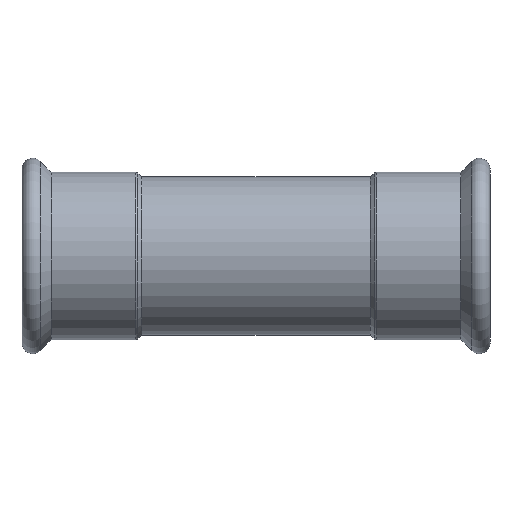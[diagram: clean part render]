
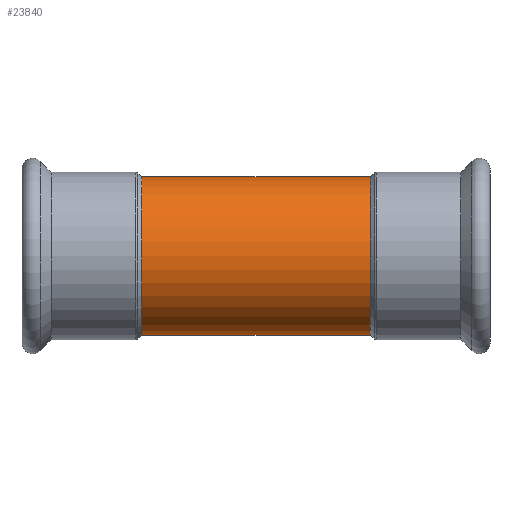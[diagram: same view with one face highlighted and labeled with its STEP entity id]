
A CAD part, top view. The second image highlights one B-rep face of the part: STEP entity #23840.
In plain terms, the highlighted cylindrical face has radius 44.45 mm (diameter 88.9 mm), a partial arc.
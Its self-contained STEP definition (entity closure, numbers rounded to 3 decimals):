
#4580=CARTESIAN_POINT('',(13.846,145.131,
0.));
#4590=DIRECTION('',(1.,0.,0.));
#4600=DIRECTION('',(0.,0.,1.));
#4610=AXIS2_PLACEMENT_3D('',#4580,#4590,#4600);
#4620=CYLINDRICAL_SURFACE('',#4610,44.45);
#12190=CARTESIAN_POINT('',(-114.154,145.131,44.45));
#12200=VERTEX_POINT('',#12190);
#12380=CARTESIAN_POINT('',(-114.154,145.131,-44.45));
#12390=VERTEX_POINT('',#12380);
#12420=CARTESIAN_POINT('',(-114.154,145.131,
0.));
#12430=DIRECTION('',(1.,0.,0.));
#12440=DIRECTION('',(0.,0.,1.));
#12450=AXIS2_PLACEMENT_3D('',#12420,#12430,#12440);
#12460=CIRCLE('',#12450,44.45);
#13470=CARTESIAN_POINT('',(13.846,145.131,-44.45));
#13480=DIRECTION('',(1.,0.,0.));
#13490=VECTOR('',#13480,1.);
#13500=LINE('',#13470,#13490);
#13510=CARTESIAN_POINT('',(13.846,145.131,-44.45));
#13520=VERTEX_POINT('',#13510);
#13530=EDGE_CURVE('',#12390,#13520,#13500,.T.);
#13550=CARTESIAN_POINT('',(13.846,145.131,
0.));
#13560=DIRECTION('',(1.,0.,0.));
#13570=DIRECTION('',(0.,0.,-1.));
#13580=AXIS2_PLACEMENT_3D('',#13550,#13560,#13570);
#13590=CIRCLE('',#13580,44.45);
#13600=CARTESIAN_POINT('',(13.846,145.131,44.45));
#13610=VERTEX_POINT('',#13600);
#13640=CARTESIAN_POINT('',(13.846,145.131,44.45));
#13650=DIRECTION('',(1.,0.,0.));
#13660=VECTOR('',#13650,1.);
#13670=LINE('',#13640,#13660);
#13680=EDGE_CURVE('',#12200,#13610,#13670,.T.);
#23330=EDGE_CURVE('',#13610,#13520,#13590,.T.);
#23770=EDGE_CURVE('',#12200,#12390,#12460,.T.);
#23780=ORIENTED_EDGE('',*,*,#23770,.T.);
#23790=ORIENTED_EDGE('',*,*,#13680,.F.);
#23800=ORIENTED_EDGE('',*,*,#23330,.F.);
#23810=ORIENTED_EDGE('',*,*,#13530,.T.);
#23820=EDGE_LOOP('',(#23810,#23800,#23790,#23780));
#23830=FACE_OUTER_BOUND('',#23820,.T.);
#23840=ADVANCED_FACE('',(#23830),#4620,.T.);
